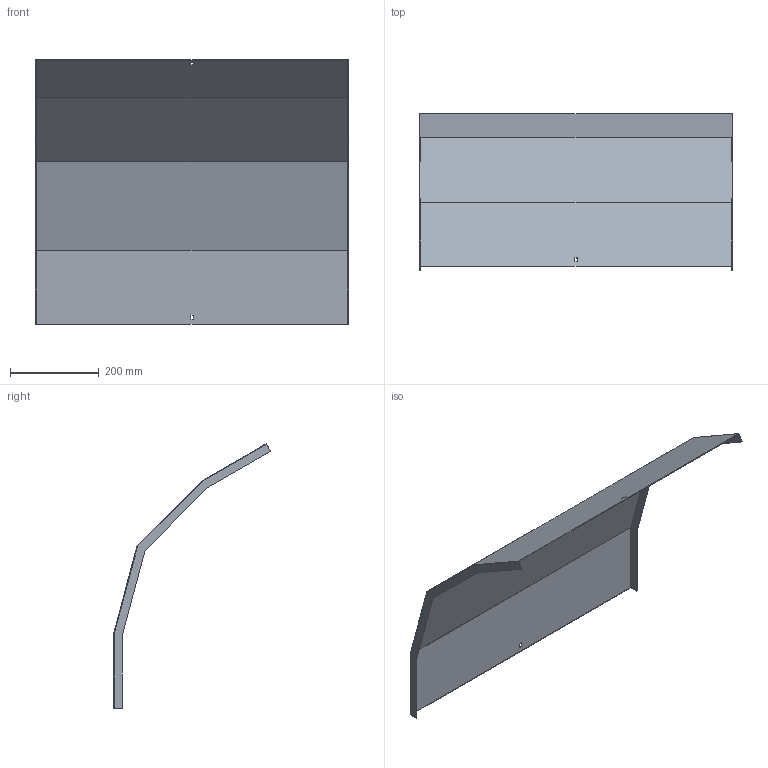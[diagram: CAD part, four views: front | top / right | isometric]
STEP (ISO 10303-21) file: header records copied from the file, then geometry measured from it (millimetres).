
FILE_DESCRIPTION (( 'STEP AP214' ), '1' );
FILE_NAME ('A2_41N3J700.step', '2025-02-21T10:40:48', ( '' ), ( '' ), 'SwSTEP 2.0', 'SolidWorks 2023', '' );
FILE_SCHEMA (( 'AUTOMOTIVE_DESIGN' ));
Length unit declared in the file: millimetre
Products named in the file (1): A2_41N3J700
Bounding box: 703 x 354.25 x 596.25 mm (x, y, z)
Volume: 827798 mm3; surface area: 1108224 mm2
Topology: 1 solids, 1 shells, 30 faces, 84 edges, 56 vertices
Faces by surface type: plane 30
Entity records: 979 total; most frequent: CARTESIAN_POINT 171, ORIENTED_EDGE 168, DIRECTION 146, LINE 84, VECTOR 84, EDGE_CURVE 84, VERTEX_POINT 56, EDGE_LOOP 34
